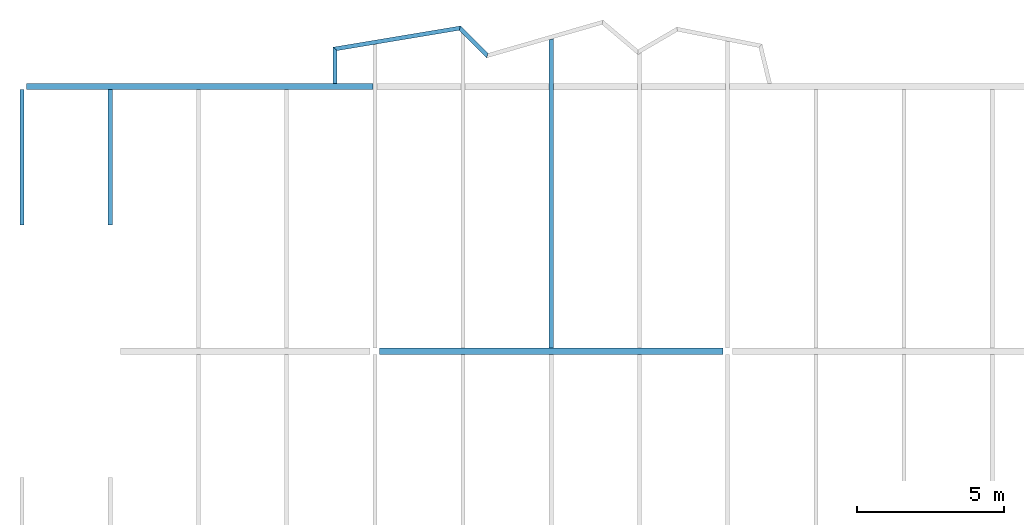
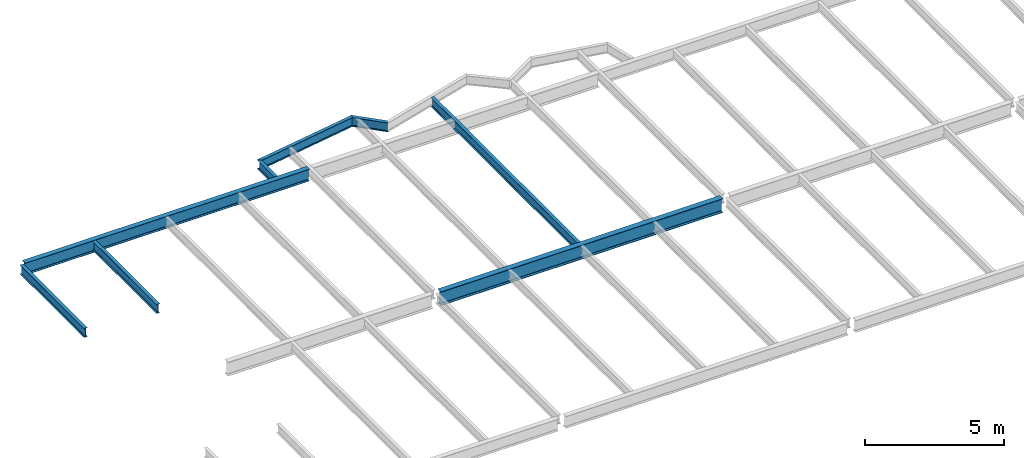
# One storey, part 3 of 21: 8 beams.
"""IFC2X3 building model written with IfcOpenShell, lengths in millimetres."""

from ifc_helpers import new_model, si_unit, origin, place, context, project, spatial, faceted_brep, material, element, save


model = new_model("IFC2X3")

# Units and contexts
context_of_model = context(None, 3, precision=1e-05, world=origin())
ifc_project = project(units=[si_unit("LENGTHUNIT", "METRE", prefix="MILLI")], contexts=[context_of_model])

# Building, storey
building = spatial("IfcBuilding", under=ifc_project, Name="Building", CompositionType="ELEMENT")
storey = spatial("IfcBuildingStorey", under=building, Name="FL3-FRM", CompositionType="ELEMENT")

# Beams
ifc_material_1 = material(Name="A992")
beam_1_placement = place(None, origin())
element("IfcBeam", 1, at=beam_1_placement, inside=storey, material=ifc_material_1, Name="Column454", context=context_of_model, shape_type="Brep", body=[
    faceted_brep([(-47836.5, 26885.5, 8261.0), (-47836.5, 27114.5, 8261.0), (-36163.5, 27114.5, 8261.0), (-36163.5, 26885.5, 8261.0), (-47836.5, 27114.5, 8280.6), (-36163.5, 27114.5, 8280.6), (-47836.5, 27018.6, 8280.6), (-36163.5, 27018.6, 8280.6), (-47836.5, 27015.4, 8281.03), (-36163.5, 27015.4, 8281.03), (-47836.5, 27012.3, 8282.3), (-36163.5, 27012.3, 8282.3), (-47836.5, 27009.7, 8284.32), (-36163.5, 27009.7, 8284.32), (-47836.5, 27007.7, 8286.95), (-36163.5, 27007.7, 8286.95), (-47836.5, 27006.4, 8290.01), (-36163.5, 27006.4, 8290.01), (-47836.5, 27005.9, 8293.3), (-36163.5, 27005.9, 8293.3), (-47836.5, 27005.9, 8840.7), (-36163.5, 27005.9, 8840.7), (-47836.5, 27006.4, 8843.99), (-36163.5, 27006.4, 8843.99), (-47836.5, 27007.7, 8847.05), (-36163.5, 27007.7, 8847.05), (-47836.5, 27009.7, 8849.68), (-36163.5, 27009.7, 8849.68), (-47836.5, 27012.3, 8851.7), (-36163.5, 27012.3, 8851.7), (-47836.5, 27015.4, 8852.97), (-36163.5, 27015.4, 8852.97), (-47836.5, 27018.6, 8853.4), (-36163.5, 27018.6, 8853.4), (-47836.5, 27114.5, 8853.4), (-36163.5, 27114.5, 8853.4), (-47836.5, 27114.5, 8873.0), (-36163.5, 27114.5, 8873.0), (-47836.5, 26885.5, 8873.0), (-36163.5, 26885.5, 8873.0), (-47836.5, 26885.5, 8853.4), (-36163.5, 26885.5, 8853.4), (-47836.5, 26981.4, 8853.4), (-36163.5, 26981.4, 8853.4), (-47836.5, 26984.6, 8852.97), (-36163.5, 26984.6, 8852.97), (-47836.5, 26987.7, 8851.7), (-36163.5, 26987.7, 8851.7), (-47836.5, 26990.3, 8849.68), (-36163.5, 26990.3, 8849.68), (-47836.5, 26992.3, 8847.05), (-36163.5, 26992.3, 8847.05), (-47836.5, 26993.6, 8843.99), (-36163.5, 26993.6, 8843.99), (-47836.5, 26994.1, 8840.7), (-36163.5, 26994.1, 8840.7), (-47836.5, 26994.1, 8293.3), (-36163.5, 26994.1, 8293.3), (-47836.5, 26993.6, 8290.01), (-36163.5, 26993.6, 8290.01), (-47836.5, 26992.3, 8286.95), (-36163.5, 26992.3, 8286.95), (-47836.5, 26990.3, 8284.32), (-36163.5, 26990.3, 8284.32), (-47836.5, 26987.7, 8282.3), (-36163.5, 26987.7, 8282.3), (-47836.5, 26984.6, 8281.03), (-36163.5, 26984.6, 8281.03), (-47836.5, 26981.4, 8280.6), (-36163.5, 26981.4, 8280.6), (-47836.5, 26885.5, 8280.6), (-36163.5, 26885.5, 8280.6)], [[[0, 1, 2, 3]], [[1, 4, 5, 2]], [[4, 6, 7, 5]], [[6, 8, 9, 7]], [[8, 10, 11, 9]], [[10, 12, 13, 11]], [[12, 14, 15, 13]], [[14, 16, 17, 15]], [[16, 18, 19, 17]], [[18, 20, 21, 19]], [[20, 22, 23, 21]], [[22, 24, 25, 23]], [[24, 26, 27, 25]], [[26, 28, 29, 27]], [[28, 30, 31, 29]], [[30, 32, 33, 31]], [[32, 34, 35, 33]], [[34, 36, 37, 35]], [[36, 38, 39, 37]], [[38, 40, 41, 39]], [[40, 42, 43, 41]], [[42, 44, 45, 43]], [[44, 46, 47, 45]], [[46, 48, 49, 47]], [[48, 50, 51, 49]], [[50, 52, 53, 51]], [[52, 54, 55, 53]], [[54, 56, 57, 55]], [[56, 58, 59, 57]], [[58, 60, 61, 59]], [[60, 62, 63, 61]], [[62, 64, 65, 63]], [[64, 66, 67, 65]], [[66, 68, 69, 67]], [[68, 70, 71, 69]], [[70, 0, 3, 71]], [[0, 70, 68, 66, 64, 62, 60, 58, 56, 54, 52, 50, 48, 46, 44, 42, 40, 38, 36, 34, 32, 30, 28, 26, 24, 22, 20, 18, 16, 14, 12, 10, 8, 6, 4, 1]], [[3, 2, 5, 7, 9, 11, 13, 15, 17, 19, 21, 23, 25, 27, 29, 31, 33, 35, 37, 39, 41, 43, 45, 47, 49, 51, 53, 55, 57, 59, 61, 63, 65, 67, 69, 71]]]),
])
ifc_material_2 = material(Name="A992")
beam_2_placement = place(None, origin())
element("IfcBeam", 2, at=beam_2_placement, inside=storey, material=ifc_material_2, Name="Column461", context=context_of_model, shape_type="Brep", body=[
    faceted_brep([(-59848.5, 35895.5, 8345.0), (-59848.5, 36104.5, 8345.0), (-48070.0, 36104.5, 8345.0), (-48070.0, 35895.5, 8345.0), (-59848.5, 36104.5, 8358.3), (-48070.0, 36104.5, 8358.3), (-59848.5, 36017.4, 8358.3), (-48070.0, 36017.4, 8358.3), (-59848.5, 36014.2, 8358.73), (-48070.0, 36014.2, 8358.73), (-59848.5, 36011.1, 8360.0), (-48070.0, 36011.1, 8360.0), (-59848.5, 36008.5, 8362.02), (-48070.0, 36008.5, 8362.02), (-59848.5, 36006.5, 8364.65), (-48070.0, 36006.5, 8364.65), (-59848.5, 36005.2, 8367.71), (-48070.0, 36005.2, 8367.71), (-59848.5, 36004.8, 8371.0), (-48070.0, 36004.8, 8371.0), (-59848.5, 36004.8, 8847.0), (-48070.0, 36004.8, 8847.0), (-59848.5, 36005.2, 8850.29), (-48070.0, 36005.2, 8850.29), (-59848.5, 36006.5, 8853.35), (-48070.0, 36006.5, 8853.35), (-59848.5, 36008.5, 8855.98), (-48070.0, 36008.5, 8855.98), (-59848.5, 36011.1, 8858.0), (-48070.0, 36011.1, 8858.0), (-59848.5, 36014.2, 8859.27), (-48070.0, 36014.2, 8859.27), (-59848.5, 36017.4, 8859.7), (-48070.0, 36017.4, 8859.7), (-59848.5, 36104.5, 8859.7), (-48070.0, 36104.5, 8859.7), (-59848.5, 36104.5, 8873.0), (-48070.0, 36104.5, 8873.0), (-59848.5, 35895.5, 8873.0), (-48070.0, 35895.5, 8873.0), (-59848.5, 35895.5, 8859.7), (-48070.0, 35895.5, 8859.7), (-59848.5, 35982.6, 8859.7), (-48070.0, 35982.6, 8859.7), (-59848.5, 35985.8, 8859.27), (-48070.0, 35985.8, 8859.27), (-59848.5, 35988.9, 8858.0), (-48070.0, 35988.9, 8858.0), (-59848.5, 35991.5, 8855.98), (-48070.0, 35991.5, 8855.98), (-59848.5, 35993.5, 8853.35), (-48070.0, 35993.5, 8853.35), (-59848.5, 35994.8, 8850.29), (-48070.0, 35994.8, 8850.29), (-59848.5, 35995.3, 8847.0), (-48070.0, 35995.3, 8847.0), (-59848.5, 35995.3, 8371.0), (-48070.0, 35995.3, 8371.0), (-59848.5, 35994.8, 8367.71), (-48070.0, 35994.8, 8367.71), (-59848.5, 35993.5, 8364.65), (-48070.0, 35993.5, 8364.65), (-59848.5, 35991.5, 8362.02), (-48070.0, 35991.5, 8362.02), (-59848.5, 35988.9, 8360.0), (-48070.0, 35988.9, 8360.0), (-59848.5, 35985.8, 8358.73), (-48070.0, 35985.8, 8358.73), (-59848.5, 35982.6, 8358.3), (-48070.0, 35982.6, 8358.3), (-59848.5, 35895.5, 8358.3), (-48070.0, 35895.5, 8358.3)], [[[0, 1, 2, 3]], [[1, 4, 5, 2]], [[4, 6, 7, 5]], [[6, 8, 9, 7]], [[8, 10, 11, 9]], [[10, 12, 13, 11]], [[12, 14, 15, 13]], [[14, 16, 17, 15]], [[16, 18, 19, 17]], [[18, 20, 21, 19]], [[20, 22, 23, 21]], [[22, 24, 25, 23]], [[24, 26, 27, 25]], [[26, 28, 29, 27]], [[28, 30, 31, 29]], [[30, 32, 33, 31]], [[32, 34, 35, 33]], [[34, 36, 37, 35]], [[36, 38, 39, 37]], [[38, 40, 41, 39]], [[40, 42, 43, 41]], [[42, 44, 45, 43]], [[44, 46, 47, 45]], [[46, 48, 49, 47]], [[48, 50, 51, 49]], [[50, 52, 53, 51]], [[52, 54, 55, 53]], [[54, 56, 57, 55]], [[56, 58, 59, 57]], [[58, 60, 61, 59]], [[60, 62, 63, 61]], [[62, 64, 65, 63]], [[64, 66, 67, 65]], [[66, 68, 69, 67]], [[68, 70, 71, 69]], [[70, 0, 3, 71]], [[0, 70, 68, 66, 64, 62, 60, 58, 56, 54, 52, 50, 48, 46, 44, 42, 40, 38, 36, 34, 32, 30, 28, 26, 24, 22, 20, 18, 16, 14, 12, 10, 8, 6, 4, 1]], [[3, 2, 5, 7, 9, 11, 13, 15, 17, 19, 21, 23, 25, 27, 29, 31, 33, 35, 37, 39, 41, 43, 45, 47, 49, 51, 53, 55, 57, 59, 61, 63, 65, 67, 69, 71]]]),
])
ifc_material_3 = material(Name="A992")
beam_3_placement = place(None, origin())
element("IfcBeam", 3, at=beam_3_placement, inside=storey, material=ifc_material_3, Name="B1085", context=context_of_model, shape_type="Brep", body=[
    faceted_brep([(-42070.0, 37592.1, 8474.0), (-41930.0, 37632.7, 8474.0), (-41930.0, 27114.5, 8474.0), (-42070.0, 27114.5, 8474.0), (-41930.0, 37632.7, 8482.8), (-41930.0, 27114.5, 8482.8), (-41986.6, 37616.3, 8482.8), (-41986.6, 27114.5, 8482.8), (-41988.0, 37615.9, 8482.9), (-41988.1, 27114.5, 8482.9), (-41989.5, 37615.4, 8483.21), (-41989.5, 27114.5, 8483.21), (-41990.8, 37615.0, 8483.72), (-41990.8, 27114.5, 8483.72), (-41992.1, 37614.7, 8484.42), (-41992.1, 27114.5, 8484.42), (-41993.3, 37614.3, 8485.29), (-41993.3, 27114.5, 8485.29), (-41994.3, 37614.0, 8486.32), (-41994.3, 27114.5, 8486.32), (-41995.2, 37613.8, 8487.48), (-41995.2, 27114.5, 8487.49), (-41995.9, 37613.6, 8488.76), (-41995.9, 27114.5, 8488.76), (-41996.4, 37613.4, 8490.12), (-41996.4, 27114.5, 8490.13), (-41996.7, 37613.4, 8491.55), (-41996.7, 27114.5, 8491.55), (-41996.8, 37613.3, 8493.0), (-41996.8, 27114.5, 8493.0), (-41996.8, 37613.3, 8854.0), (-41996.8, 27114.5, 8854.0), (-41996.7, 37613.4, 8855.45), (-41996.7, 27114.5, 8855.45), (-41996.4, 37613.4, 8856.88), (-41996.4, 27114.5, 8856.87), (-41995.9, 37613.6, 8858.24), (-41995.9, 27114.5, 8858.24), (-41995.2, 37613.8, 8859.52), (-41995.2, 27114.5, 8859.51), (-41994.3, 37614.0, 8860.68), (-41994.3, 27114.5, 8860.68), (-41993.3, 37614.3, 8861.71), (-41993.3, 27114.5, 8861.71), (-41992.1, 37614.7, 8862.58), (-41992.1, 27114.5, 8862.58), (-41990.8, 37615.0, 8863.28), (-41990.8, 27114.5, 8863.28), (-41989.5, 37615.4, 8863.79), (-41989.5, 27114.5, 8863.79), (-41988.0, 37615.9, 8864.1), (-41988.1, 27114.5, 8864.1), (-41986.6, 37616.3, 8864.2), (-41986.6, 27114.5, 8864.2), (-41930.0, 37632.7, 8864.2), (-41930.0, 27114.5, 8864.2), (-41930.0, 37632.7, 8873.0), (-41930.0, 27114.5, 8873.0), (-42070.0, 37592.1, 8873.0), (-42070.0, 27114.5, 8873.0), (-42070.0, 37592.1, 8864.2), (-42070.0, 27114.5, 8864.2), (-42013.4, 37608.5, 8864.2), (-42013.4, 27114.5, 8864.2), (-42012.0, 37608.9, 8864.1), (-42011.9, 27114.5, 8864.1), (-42010.5, 37609.3, 8863.79), (-42010.5, 27114.5, 8863.79), (-42009.2, 37609.7, 8863.28), (-42009.2, 27114.5, 8863.28), (-42007.9, 37610.1, 8862.58), (-42007.9, 27114.5, 8862.58), (-42006.7, 37610.4, 8861.71), (-42006.7, 27114.5, 8861.71), (-42005.7, 37610.7, 8860.68), (-42005.7, 27114.5, 8860.68), (-42004.8, 37611.0, 8859.52), (-42004.8, 27114.5, 8859.51), (-42004.1, 37611.2, 8858.24), (-42004.1, 27114.5, 8858.24), (-42003.6, 37611.3, 8856.88), (-42003.6, 27114.5, 8856.87), (-42003.3, 37611.4, 8855.45), (-42003.3, 27114.5, 8855.45), (-42003.2, 37611.5, 8854.0), (-42003.2, 27114.5, 8854.0), (-42003.2, 37611.5, 8493.0), (-42003.2, 27114.5, 8493.0), (-42003.3, 37611.4, 8491.55), (-42003.3, 27114.5, 8491.55), (-42003.6, 37611.3, 8490.12), (-42003.6, 27114.5, 8490.13), (-42004.1, 37611.2, 8488.76), (-42004.1, 27114.5, 8488.76), (-42004.8, 37611.0, 8487.48), (-42004.8, 27114.5, 8487.49), (-42005.7, 37610.7, 8486.32), (-42005.7, 27114.5, 8486.32), (-42006.7, 37610.4, 8485.29), (-42006.7, 27114.5, 8485.29), (-42007.9, 37610.1, 8484.42), (-42007.9, 27114.5, 8484.42), (-42009.2, 37609.7, 8483.72), (-42009.2, 27114.5, 8483.72), (-42010.5, 37609.3, 8483.21), (-42010.5, 27114.5, 8483.21), (-42012.0, 37608.9, 8482.9), (-42011.9, 27114.5, 8482.9), (-42013.4, 37608.5, 8482.8), (-42013.4, 27114.5, 8482.8), (-42070.0, 37592.1, 8482.8), (-42070.0, 27114.5, 8482.8)], [[[0, 1, 2, 3]], [[1, 4, 5, 2]], [[4, 6, 7, 5]], [[6, 8, 9, 7]], [[8, 10, 11, 9]], [[10, 12, 13, 11]], [[12, 14, 15, 13]], [[14, 16, 17, 15]], [[16, 18, 19, 17]], [[18, 20, 21, 19]], [[20, 22, 23, 21]], [[22, 24, 25, 23]], [[24, 26, 27, 25]], [[26, 28, 29, 27]], [[28, 30, 31, 29]], [[30, 32, 33, 31]], [[32, 34, 35, 33]], [[34, 36, 37, 35]], [[36, 38, 39, 37]], [[38, 40, 41, 39]], [[40, 42, 43, 41]], [[42, 44, 45, 43]], [[44, 46, 47, 45]], [[46, 48, 49, 47]], [[48, 50, 51, 49]], [[50, 52, 53, 51]], [[52, 54, 55, 53]], [[54, 56, 57, 55]], [[56, 58, 59, 57]], [[58, 60, 61, 59]], [[60, 62, 63, 61]], [[62, 64, 65, 63]], [[64, 66, 67, 65]], [[66, 68, 69, 67]], [[68, 70, 71, 69]], [[70, 72, 73, 71]], [[72, 74, 75, 73]], [[74, 76, 77, 75]], [[76, 78, 79, 77]], [[78, 80, 81, 79]], [[80, 82, 83, 81]], [[82, 84, 85, 83]], [[84, 86, 87, 85]], [[86, 88, 89, 87]], [[88, 90, 91, 89]], [[90, 92, 93, 91]], [[92, 94, 95, 93]], [[94, 96, 97, 95]], [[96, 98, 99, 97]], [[98, 100, 101, 99]], [[100, 102, 103, 101]], [[102, 104, 105, 103]], [[104, 106, 107, 105]], [[106, 108, 109, 107]], [[108, 110, 111, 109]], [[110, 0, 3, 111]], [[0, 110, 108, 106, 104, 102, 100, 98, 96, 94, 92, 90, 88, 86, 84, 82, 80, 78, 76, 74, 72, 70, 68, 66, 64, 62, 60, 58, 56, 54, 52, 50, 48, 46, 44, 42, 40, 38, 36, 34, 32, 30, 28, 26, 24, 22, 20, 18, 16, 14, 12, 10, 8, 6, 4, 1]], [[3, 2, 5, 7, 9, 11, 13, 15, 17, 19, 21, 23, 25, 27, 29, 31, 33, 35, 37, 39, 41, 43, 45, 47, 49, 51, 53, 55, 57, 59, 61, 63, 65, 67, 69, 71, 73, 75, 77, 79, 81, 83, 85, 87, 89, 91, 93, 95, 97, 99, 101, 103, 105, 107, 109, 111]]]),
])
ifc_material_4 = material(Name="A992")
beam_4_placement = place(None, origin())
element("IfcBeam", 4, at=beam_4_placement, inside=storey, material=ifc_material_4, Name="B1086", context=context_of_model, shape_type="Brep", body=[
    faceted_brep([(-45135.0, 37916.8, 8474.0), (-45087.0, 38066.7, 8474.0), (-44154.7, 37134.4, 8474.0), (-44195.2, 36976.9, 8474.0), (-45087.0, 38066.7, 8482.8), (-44154.7, 37134.4, 8482.8), (-45106.4, 38006.1, 8482.8), (-44171.0, 37070.8, 8482.8), (-45106.9, 38004.4, 8482.92), (-44171.5, 37069.0, 8482.91), (-45107.5, 38002.7, 8483.29), (-44172.0, 37067.2, 8483.29), (-45108.0, 38001.1, 8483.91), (-44172.4, 37065.6, 8483.91), (-45108.4, 37999.7, 8484.73), (-44172.8, 37064.0, 8484.73), (-45108.9, 37998.4, 8485.79), (-44173.1, 37062.6, 8485.79), (-45109.2, 37997.3, 8486.99), (-44173.4, 37061.5, 8486.99), (-45109.5, 37996.4, 8488.36), (-44173.7, 37060.5, 8488.35), (-45109.7, 37995.7, 8489.84), (-44173.9, 37059.9, 8489.84), (-45109.8, 37995.3, 8491.4), (-44174.0, 37059.4, 8491.4), (-45109.9, 37995.2, 8493.0), (-44174.0, 37059.3, 8493.0), (-45109.9, 37995.2, 8854.0), (-44174.0, 37059.3, 8854.0), (-45109.8, 37995.3, 8855.6), (-44174.0, 37059.4, 8855.6), (-45109.7, 37995.7, 8857.16), (-44173.9, 37059.9, 8857.16), (-45109.5, 37996.4, 8858.64), (-44173.7, 37060.5, 8858.65), (-45109.2, 37997.3, 8860.01), (-44173.4, 37061.5, 8860.01), (-45108.9, 37998.4, 8861.21), (-44173.1, 37062.6, 8861.21), (-45108.4, 37999.7, 8862.27), (-44172.8, 37064.0, 8862.27), (-45108.0, 38001.1, 8863.09), (-44172.4, 37065.6, 8863.09), (-45107.5, 38002.7, 8863.71), (-44172.0, 37067.2, 8863.71), (-45106.9, 38004.4, 8864.08), (-44171.5, 37069.0, 8864.09), (-45106.4, 38006.1, 8864.2), (-44171.0, 37070.8, 8864.2), (-45087.0, 38066.7, 8864.2), (-44154.7, 37134.4, 8864.2), (-45087.0, 38066.7, 8873.0), (-44154.7, 37134.4, 8873.0), (-45135.0, 37916.8, 8873.0), (-44195.2, 36976.9, 8873.0), (-45135.0, 37916.8, 8864.2), (-44195.2, 36976.9, 8864.2), (-45115.6, 37977.4, 8864.2), (-44178.8, 37040.6, 8864.2), (-45115.0, 37979.1, 8864.08), (-44178.3, 37042.4, 8864.09), (-45114.5, 37980.8, 8863.71), (-44177.9, 37044.2, 8863.71), (-45114.0, 37982.3, 8863.09), (-44177.5, 37045.8, 8863.09), (-45113.5, 37983.8, 8862.27), (-44177.1, 37047.3, 8862.27), (-45113.1, 37985.1, 8861.21), (-44176.7, 37048.7, 8861.21), (-45112.8, 37986.2, 8860.01), (-44176.4, 37049.9, 8860.01), (-45112.5, 37987.1, 8858.64), (-44176.2, 37050.8, 8858.65), (-45112.3, 37987.8, 8857.16), (-44176.0, 37051.5, 8857.16), (-45112.1, 37988.2, 8855.6), (-44175.9, 37051.9, 8855.6), (-45112.1, 37988.3, 8854.0), (-44175.9, 37052.1, 8854.0), (-45112.1, 37988.3, 8493.0), (-44175.9, 37052.1, 8493.0), (-45112.1, 37988.2, 8491.4), (-44175.9, 37051.9, 8491.4), (-45112.3, 37987.8, 8489.84), (-44176.0, 37051.5, 8489.84), (-45112.5, 37987.1, 8488.36), (-44176.2, 37050.8, 8488.35), (-45112.8, 37986.2, 8486.99), (-44176.4, 37049.9, 8486.99), (-45113.1, 37985.1, 8485.79), (-44176.7, 37048.7, 8485.79), (-45113.5, 37983.8, 8484.73), (-44177.1, 37047.3, 8484.73), (-45114.0, 37982.3, 8483.91), (-44177.5, 37045.8, 8483.91), (-45114.5, 37980.8, 8483.29), (-44177.9, 37044.2, 8483.29), (-45115.0, 37979.1, 8482.92), (-44178.3, 37042.4, 8482.91), (-45115.6, 37977.4, 8482.8), (-44178.8, 37040.6, 8482.8), (-45135.0, 37916.8, 8482.8), (-44195.2, 36976.9, 8482.8)], [[[0, 1, 2, 3]], [[1, 4, 5, 2]], [[4, 6, 7, 5]], [[6, 8, 9, 7]], [[8, 10, 11, 9]], [[10, 12, 13, 11]], [[12, 14, 15, 13]], [[14, 16, 17, 15]], [[16, 18, 19, 17]], [[18, 20, 21, 19]], [[20, 22, 23, 21]], [[22, 24, 25, 23]], [[24, 26, 27, 25]], [[26, 28, 29, 27]], [[28, 30, 31, 29]], [[30, 32, 33, 31]], [[32, 34, 35, 33]], [[34, 36, 37, 35]], [[36, 38, 39, 37]], [[38, 40, 41, 39]], [[40, 42, 43, 41]], [[42, 44, 45, 43]], [[44, 46, 47, 45]], [[46, 48, 49, 47]], [[48, 50, 51, 49]], [[50, 52, 53, 51]], [[52, 54, 55, 53]], [[54, 56, 57, 55]], [[56, 58, 59, 57]], [[58, 60, 61, 59]], [[60, 62, 63, 61]], [[62, 64, 65, 63]], [[64, 66, 67, 65]], [[66, 68, 69, 67]], [[68, 70, 71, 69]], [[70, 72, 73, 71]], [[72, 74, 75, 73]], [[74, 76, 77, 75]], [[76, 78, 79, 77]], [[78, 80, 81, 79]], [[80, 82, 83, 81]], [[82, 84, 85, 83]], [[84, 86, 87, 85]], [[86, 88, 89, 87]], [[88, 90, 91, 89]], [[90, 92, 93, 91]], [[92, 94, 95, 93]], [[94, 96, 97, 95]], [[96, 98, 99, 97]], [[98, 100, 101, 99]], [[100, 102, 103, 101]], [[102, 0, 3, 103]], [[0, 102, 100, 98, 96, 94, 92, 90, 88, 86, 84, 82, 80, 78, 76, 74, 72, 70, 68, 66, 64, 62, 60, 58, 56, 54, 52, 50, 48, 46, 44, 42, 40, 38, 36, 34, 32, 30, 28, 26, 24, 22, 20, 18, 16, 14, 12, 10, 8, 6, 4, 1]], [[3, 2, 5, 7, 9, 11, 13, 15, 17, 19, 21, 23, 25, 27, 29, 31, 33, 35, 37, 39, 41, 43, 45, 47, 49, 51, 53, 55, 57, 59, 61, 63, 65, 67, 69, 71, 73, 75, 77, 79, 81, 83, 85, 87, 89, 91, 93, 95, 97, 99, 101, 103]]]),
])
ifc_material_5 = material(Name="A992")
beam_5_placement = place(None, origin())
element("IfcBeam", 5, at=beam_5_placement, inside=storey, material=ifc_material_5, Name="B1089", context=context_of_model, shape_type="Brep", body=[
    faceted_brep([(-49280.0, 37225.9, 8474.0), (-49420.0, 37344.5, 8474.0), (-45087.0, 38066.7, 8474.0), (-45135.0, 37916.8, 8474.0), (-49420.0, 37344.5, 8482.8), (-45087.0, 38066.7, 8482.8), (-49363.4, 37296.6, 8482.8), (-45106.4, 38006.1, 8482.8), (-49361.8, 37295.2, 8482.91), (-45106.9, 38004.4, 8482.92), (-49360.3, 37293.9, 8483.29), (-45107.5, 38002.7, 8483.29), (-49358.8, 37292.7, 8483.9), (-45108.0, 38001.1, 8483.91), (-49357.4, 37291.5, 8484.72), (-45108.4, 37999.7, 8484.73), (-49356.2, 37290.5, 8485.79), (-45108.9, 37998.4, 8485.79), (-49355.2, 37289.6, 8486.97), (-45109.2, 37997.3, 8486.99), (-49354.3, 37288.9, 8488.34), (-45109.5, 37996.4, 8488.36), (-49353.7, 37288.4, 8489.84), (-45109.7, 37995.7, 8489.84), (-49353.4, 37288.1, 8491.39), (-45109.8, 37995.3, 8491.4), (-49353.2, 37287.9, 8493.0), (-45109.9, 37995.2, 8493.0), (-49353.2, 37287.9, 8854.0), (-45109.9, 37995.2, 8854.0), (-49353.4, 37288.1, 8855.61), (-45109.8, 37995.3, 8855.6), (-49353.7, 37288.4, 8857.16), (-45109.7, 37995.7, 8857.16), (-49354.3, 37288.9, 8858.66), (-45109.5, 37996.4, 8858.64), (-49355.2, 37289.6, 8860.03), (-45109.2, 37997.3, 8860.01), (-49356.2, 37290.5, 8861.21), (-45108.9, 37998.4, 8861.21), (-49357.4, 37291.5, 8862.28), (-45108.4, 37999.7, 8862.27), (-49358.8, 37292.7, 8863.1), (-45108.0, 38001.1, 8863.09), (-49360.3, 37293.9, 8863.71), (-45107.5, 38002.7, 8863.71), (-49361.8, 37295.2, 8864.09), (-45106.9, 38004.4, 8864.08), (-49363.4, 37296.6, 8864.2), (-45106.4, 38006.1, 8864.2), (-49420.0, 37344.5, 8864.2), (-45087.0, 38066.7, 8864.2), (-49420.0, 37344.5, 8873.0), (-45087.0, 38066.7, 8873.0), (-49280.0, 37225.9, 8873.0), (-45135.0, 37916.8, 8873.0), (-49280.0, 37225.9, 8864.2), (-45135.0, 37916.8, 8864.2), (-49336.6, 37273.9, 8864.2), (-45115.6, 37977.4, 8864.2), (-49338.2, 37275.2, 8864.09), (-45115.0, 37979.1, 8864.08), (-49339.7, 37276.5, 8863.71), (-45114.5, 37980.8, 8863.71), (-49341.2, 37277.8, 8863.1), (-45114.0, 37982.3, 8863.09), (-49342.6, 37278.9, 8862.28), (-45113.5, 37983.8, 8862.27), (-49343.8, 37280.0, 8861.21), (-45113.1, 37985.1, 8861.21), (-49344.8, 37280.9, 8860.03), (-45112.8, 37986.2, 8860.01), (-49345.7, 37281.6, 8858.66), (-45112.5, 37987.1, 8858.64), (-49346.3, 37282.1, 8857.16), (-45112.3, 37987.8, 8857.16), (-49346.6, 37282.4, 8855.61), (-45112.1, 37988.2, 8855.6), (-49346.8, 37282.5, 8854.0), (-45112.1, 37988.3, 8854.0), (-49346.8, 37282.5, 8493.0), (-45112.1, 37988.3, 8493.0), (-49346.6, 37282.4, 8491.39), (-45112.1, 37988.2, 8491.4), (-49346.3, 37282.1, 8489.84), (-45112.3, 37987.8, 8489.84), (-49345.7, 37281.6, 8488.34), (-45112.5, 37987.1, 8488.36), (-49344.8, 37280.9, 8486.97), (-45112.8, 37986.2, 8486.99), (-49343.8, 37280.0, 8485.79), (-45113.1, 37985.1, 8485.79), (-49342.6, 37278.9, 8484.72), (-45113.5, 37983.8, 8484.73), (-49341.2, 37277.8, 8483.9), (-45114.0, 37982.3, 8483.91), (-49339.7, 37276.5, 8483.29), (-45114.5, 37980.8, 8483.29), (-49338.2, 37275.2, 8482.91), (-45115.0, 37979.1, 8482.92), (-49336.6, 37273.9, 8482.8), (-45115.6, 37977.4, 8482.8), (-49280.0, 37225.9, 8482.8), (-45135.0, 37916.8, 8482.8)], [[[0, 1, 2, 3]], [[1, 4, 5, 2]], [[4, 6, 7, 5]], [[6, 8, 9, 7]], [[8, 10, 11, 9]], [[10, 12, 13, 11]], [[12, 14, 15, 13]], [[14, 16, 17, 15]], [[16, 18, 19, 17]], [[18, 20, 21, 19]], [[20, 22, 23, 21]], [[22, 24, 25, 23]], [[24, 26, 27, 25]], [[26, 28, 29, 27]], [[28, 30, 31, 29]], [[30, 32, 33, 31]], [[32, 34, 35, 33]], [[34, 36, 37, 35]], [[36, 38, 39, 37]], [[38, 40, 41, 39]], [[40, 42, 43, 41]], [[42, 44, 45, 43]], [[44, 46, 47, 45]], [[46, 48, 49, 47]], [[48, 50, 51, 49]], [[50, 52, 53, 51]], [[52, 54, 55, 53]], [[54, 56, 57, 55]], [[56, 58, 59, 57]], [[58, 60, 61, 59]], [[60, 62, 63, 61]], [[62, 64, 65, 63]], [[64, 66, 67, 65]], [[66, 68, 69, 67]], [[68, 70, 71, 69]], [[70, 72, 73, 71]], [[72, 74, 75, 73]], [[74, 76, 77, 75]], [[76, 78, 79, 77]], [[78, 80, 81, 79]], [[80, 82, 83, 81]], [[82, 84, 85, 83]], [[84, 86, 87, 85]], [[86, 88, 89, 87]], [[88, 90, 91, 89]], [[90, 92, 93, 91]], [[92, 94, 95, 93]], [[94, 96, 97, 95]], [[96, 98, 99, 97]], [[98, 100, 101, 99]], [[100, 102, 103, 101]], [[102, 0, 3, 103]], [[0, 102, 100, 98, 96, 94, 92, 90, 88, 86, 84, 82, 80, 78, 76, 74, 72, 70, 68, 66, 64, 62, 60, 58, 56, 54, 52, 50, 48, 46, 44, 42, 40, 38, 36, 34, 32, 30, 28, 26, 24, 22, 20, 18, 16, 14, 12, 10, 8, 6, 4, 1]], [[3, 2, 5, 7, 9, 11, 13, 15, 17, 19, 21, 23, 25, 27, 29, 31, 33, 35, 37, 39, 41, 43, 45, 47, 49, 51, 53, 55, 57, 59, 61, 63, 65, 67, 69, 71, 73, 75, 77, 79, 81, 83, 85, 87, 89, 91, 93, 95, 97, 99, 101, 103]]]),
])
ifc_material_6 = material(Name="A992")
beam_6_placement = place(None, origin())
element("IfcBeam", 6, at=beam_6_placement, inside=storey, material=ifc_material_6, Name="B1090", context=context_of_model, shape_type="Brep", body=[
    faceted_brep([(-49280.0, 36104.5, 8474.0), (-49420.0, 36104.5, 8474.0), (-49420.0, 37344.5, 8474.0), (-49280.0, 37225.9, 8474.0), (-49420.0, 36104.5, 8482.8), (-49420.0, 37344.5, 8482.8), (-49363.4, 36104.5, 8482.8), (-49363.4, 37296.6, 8482.8), (-49361.9, 36104.5, 8482.9), (-49362.0, 37295.4, 8482.89), (-49360.5, 36104.5, 8483.21), (-49360.5, 37294.2, 8483.2), (-49359.2, 36104.5, 8483.72), (-49359.2, 37293.0, 8483.72), (-49357.9, 36104.5, 8484.42), (-49357.9, 37291.9, 8484.39), (-49356.7, 36104.5, 8485.29), (-49356.7, 37290.9, 8485.27), (-49355.7, 36104.5, 8486.32), (-49355.7, 37290.1, 8486.3), (-49354.8, 36104.5, 8487.49), (-49354.8, 37289.3, 8487.45), (-49354.1, 36104.5, 8488.76), (-49354.1, 37288.7, 8488.74), (-49353.6, 36104.5, 8490.13), (-49353.6, 37288.3, 8490.11), (-49353.3, 36104.5, 8491.55), (-49353.3, 37288.1, 8491.53), (-49353.2, 36104.5, 8493.0), (-49353.2, 37287.9, 8493.0), (-49353.2, 36104.5, 8854.0), (-49353.2, 37287.9, 8854.0), (-49353.3, 36104.5, 8855.45), (-49353.3, 37288.1, 8855.47), (-49353.6, 36104.5, 8856.87), (-49353.6, 37288.3, 8856.89), (-49354.1, 36104.5, 8858.24), (-49354.1, 37288.7, 8858.26), (-49354.8, 36104.5, 8859.51), (-49354.8, 37289.3, 8859.55), (-49355.7, 36104.5, 8860.68), (-49355.7, 37290.1, 8860.7), (-49356.7, 36104.5, 8861.71), (-49356.7, 37290.9, 8861.73), (-49357.9, 36104.5, 8862.58), (-49357.9, 37291.9, 8862.61), (-49359.2, 36104.5, 8863.28), (-49359.2, 37293.0, 8863.28), (-49360.5, 36104.5, 8863.79), (-49360.5, 37294.2, 8863.8), (-49361.9, 36104.5, 8864.1), (-49362.0, 37295.4, 8864.11), (-49363.4, 36104.5, 8864.2), (-49363.4, 37296.6, 8864.2), (-49420.0, 36104.5, 8864.2), (-49420.0, 37344.5, 8864.2), (-49420.0, 36104.5, 8873.0), (-49420.0, 37344.5, 8873.0), (-49280.0, 36104.5, 8873.0), (-49280.0, 37225.9, 8873.0), (-49280.0, 36104.5, 8864.2), (-49280.0, 37225.9, 8864.2), (-49336.6, 36104.5, 8864.2), (-49336.6, 37273.9, 8864.2), (-49338.1, 36104.5, 8864.1), (-49338.0, 37275.1, 8864.11), (-49339.5, 36104.5, 8863.79), (-49339.5, 37276.3, 8863.8), (-49340.8, 36104.5, 8863.28), (-49340.8, 37277.5, 8863.28), (-49342.1, 36104.5, 8862.58), (-49342.1, 37278.5, 8862.61), (-49343.3, 36104.5, 8861.71), (-49343.3, 37279.5, 8861.73), (-49344.3, 36104.5, 8860.68), (-49344.3, 37280.4, 8860.7), (-49345.2, 36104.5, 8859.51), (-49345.2, 37281.1, 8859.55), (-49345.9, 36104.5, 8858.24), (-49345.9, 37281.7, 8858.26), (-49346.4, 36104.5, 8856.87), (-49346.4, 37282.2, 8856.89), (-49346.7, 36104.5, 8855.45), (-49346.7, 37282.4, 8855.47), (-49346.8, 36104.5, 8854.0), (-49346.8, 37282.5, 8854.0), (-49346.8, 36104.5, 8493.0), (-49346.8, 37282.5, 8493.0), (-49346.7, 36104.5, 8491.55), (-49346.7, 37282.4, 8491.53), (-49346.4, 36104.5, 8490.13), (-49346.4, 37282.2, 8490.11), (-49345.9, 36104.5, 8488.76), (-49345.9, 37281.7, 8488.74), (-49345.2, 36104.5, 8487.49), (-49345.2, 37281.1, 8487.45), (-49344.3, 36104.5, 8486.32), (-49344.3, 37280.4, 8486.3), (-49343.3, 36104.5, 8485.29), (-49343.3, 37279.5, 8485.27), (-49342.1, 36104.5, 8484.42), (-49342.1, 37278.5, 8484.39), (-49340.8, 36104.5, 8483.72), (-49340.8, 37277.5, 8483.72), (-49339.5, 36104.5, 8483.21), (-49339.5, 37276.3, 8483.2), (-49338.1, 36104.5, 8482.9), (-49338.0, 37275.1, 8482.89), (-49336.6, 36104.5, 8482.8), (-49336.6, 37273.9, 8482.8), (-49280.0, 36104.5, 8482.8), (-49280.0, 37225.9, 8482.8)], [[[0, 1, 2, 3]], [[1, 4, 5, 2]], [[4, 6, 7, 5]], [[6, 8, 9, 7]], [[8, 10, 11, 9]], [[10, 12, 13, 11]], [[12, 14, 15, 13]], [[14, 16, 17, 15]], [[16, 18, 19, 17]], [[18, 20, 21, 19]], [[20, 22, 23, 21]], [[22, 24, 25, 23]], [[24, 26, 27, 25]], [[26, 28, 29, 27]], [[28, 30, 31, 29]], [[30, 32, 33, 31]], [[32, 34, 35, 33]], [[34, 36, 37, 35]], [[36, 38, 39, 37]], [[38, 40, 41, 39]], [[40, 42, 43, 41]], [[42, 44, 45, 43]], [[44, 46, 47, 45]], [[46, 48, 49, 47]], [[48, 50, 51, 49]], [[50, 52, 53, 51]], [[52, 54, 55, 53]], [[54, 56, 57, 55]], [[56, 58, 59, 57]], [[58, 60, 61, 59]], [[60, 62, 63, 61]], [[62, 64, 65, 63]], [[64, 66, 67, 65]], [[66, 68, 69, 67]], [[68, 70, 71, 69]], [[70, 72, 73, 71]], [[72, 74, 75, 73]], [[74, 76, 77, 75]], [[76, 78, 79, 77]], [[78, 80, 81, 79]], [[80, 82, 83, 81]], [[82, 84, 85, 83]], [[84, 86, 87, 85]], [[86, 88, 89, 87]], [[88, 90, 91, 89]], [[90, 92, 93, 91]], [[92, 94, 95, 93]], [[94, 96, 97, 95]], [[96, 98, 99, 97]], [[98, 100, 101, 99]], [[100, 102, 103, 101]], [[102, 104, 105, 103]], [[104, 106, 107, 105]], [[106, 108, 109, 107]], [[108, 110, 111, 109]], [[110, 0, 3, 111]], [[0, 110, 108, 106, 104, 102, 100, 98, 96, 94, 92, 90, 88, 86, 84, 82, 80, 78, 76, 74, 72, 70, 68, 66, 64, 62, 60, 58, 56, 54, 52, 50, 48, 46, 44, 42, 40, 38, 36, 34, 32, 30, 28, 26, 24, 22, 20, 18, 16, 14, 12, 10, 8, 6, 4, 1]], [[3, 2, 5, 7, 9, 11, 13, 15, 17, 19, 21, 23, 25, 27, 29, 31, 33, 35, 37, 39, 41, 43, 45, 47, 49, 51, 53, 55, 57, 59, 61, 63, 65, 67, 69, 71, 73, 75, 77, 79, 81, 83, 85, 87, 89, 91, 93, 95, 97, 99, 101, 103, 105, 107, 109, 111]]]),
])
ifc_material_7 = material(Name="A992")
beam_7_placement = place(None, origin())
element("IfcBeam", 7, at=beam_7_placement, inside=storey, material=ifc_material_7, Name="B1092", context=context_of_model, shape_type="Brep", body=[
    faceted_brep([(-57070.0, 35895.5, 8474.0), (-56930.0, 35895.5, 8474.0), (-56930.0, 31300.0, 8474.0), (-57070.0, 31300.0, 8474.0), (-56930.0, 35895.5, 8482.8), (-56930.0, 31300.0, 8482.8), (-56986.6, 35895.5, 8482.8), (-56986.6, 31300.0, 8482.8), (-56989.2, 35895.5, 8483.15), (-56989.2, 31300.0, 8483.15), (-56991.7, 35895.5, 8484.17), (-56991.7, 31300.0, 8484.17), (-56993.8, 35895.5, 8485.79), (-56993.8, 31300.0, 8485.79), (-56995.4, 35895.5, 8487.9), (-56995.4, 31300.0, 8487.9), (-56996.5, 35895.5, 8490.36), (-56996.5, 31300.0, 8490.36), (-56996.8, 35895.5, 8493.0), (-56996.8, 31300.0, 8493.0), (-56996.8, 35895.5, 8854.0), (-56996.8, 31300.0, 8854.0), (-56996.5, 35895.5, 8856.64), (-56996.5, 31300.0, 8856.64), (-56995.4, 35895.5, 8859.1), (-56995.4, 31300.0, 8859.1), (-56993.8, 35895.5, 8861.21), (-56993.8, 31300.0, 8861.21), (-56991.7, 35895.5, 8862.83), (-56991.7, 31300.0, 8862.83), (-56989.2, 35895.5, 8863.85), (-56989.2, 31300.0, 8863.85), (-56986.6, 35895.5, 8864.2), (-56986.6, 31300.0, 8864.2), (-56930.0, 35895.5, 8864.2), (-56930.0, 31300.0, 8864.2), (-56930.0, 35895.5, 8873.0), (-56930.0, 31300.0, 8873.0), (-57070.0, 35895.5, 8873.0), (-57070.0, 31300.0, 8873.0), (-57070.0, 35895.5, 8864.2), (-57070.0, 31300.0, 8864.2), (-57013.4, 35895.5, 8864.2), (-57013.4, 31300.0, 8864.2), (-57010.8, 35895.5, 8863.85), (-57010.8, 31300.0, 8863.85), (-57008.3, 35895.5, 8862.83), (-57008.3, 31300.0, 8862.83), (-57006.2, 35895.5, 8861.21), (-57006.2, 31300.0, 8861.21), (-57004.6, 35895.5, 8859.1), (-57004.6, 31300.0, 8859.1), (-57003.5, 35895.5, 8856.64), (-57003.5, 31300.0, 8856.64), (-57003.2, 35895.5, 8854.0), (-57003.2, 31300.0, 8854.0), (-57003.2, 35895.5, 8493.0), (-57003.2, 31300.0, 8493.0), (-57003.5, 35895.5, 8490.36), (-57003.5, 31300.0, 8490.36), (-57004.6, 35895.5, 8487.9), (-57004.6, 31300.0, 8487.9), (-57006.2, 35895.5, 8485.79), (-57006.2, 31300.0, 8485.79), (-57008.3, 35895.5, 8484.17), (-57008.3, 31300.0, 8484.17), (-57010.8, 35895.5, 8483.15), (-57010.8, 31300.0, 8483.15), (-57013.4, 35895.5, 8482.8), (-57013.4, 31300.0, 8482.8), (-57070.0, 35895.5, 8482.8), (-57070.0, 31300.0, 8482.8)], [[[0, 1, 2, 3]], [[1, 4, 5, 2]], [[4, 6, 7, 5]], [[6, 8, 9, 7]], [[8, 10, 11, 9]], [[10, 12, 13, 11]], [[12, 14, 15, 13]], [[14, 16, 17, 15]], [[16, 18, 19, 17]], [[18, 20, 21, 19]], [[20, 22, 23, 21]], [[22, 24, 25, 23]], [[24, 26, 27, 25]], [[26, 28, 29, 27]], [[28, 30, 31, 29]], [[30, 32, 33, 31]], [[32, 34, 35, 33]], [[34, 36, 37, 35]], [[36, 38, 39, 37]], [[38, 40, 41, 39]], [[40, 42, 43, 41]], [[42, 44, 45, 43]], [[44, 46, 47, 45]], [[46, 48, 49, 47]], [[48, 50, 51, 49]], [[50, 52, 53, 51]], [[52, 54, 55, 53]], [[54, 56, 57, 55]], [[56, 58, 59, 57]], [[58, 60, 61, 59]], [[60, 62, 63, 61]], [[62, 64, 65, 63]], [[64, 66, 67, 65]], [[66, 68, 69, 67]], [[68, 70, 71, 69]], [[70, 0, 3, 71]], [[0, 70, 68, 66, 64, 62, 60, 58, 56, 54, 52, 50, 48, 46, 44, 42, 40, 38, 36, 34, 32, 30, 28, 26, 24, 22, 20, 18, 16, 14, 12, 10, 8, 6, 4, 1]], [[3, 2, 5, 7, 9, 11, 13, 15, 17, 19, 21, 23, 25, 27, 29, 31, 33, 35, 37, 39, 41, 43, 45, 47, 49, 51, 53, 55, 57, 59, 61, 63, 65, 67, 69, 71]]]),
])
ifc_material_8 = material(Name="A992")
beam_8_placement = place(None, origin())
element("IfcBeam", 8, at=beam_8_placement, inside=storey, material=ifc_material_8, Name="B1094", context=context_of_model, shape_type="Brep", body=[
    faceted_brep([(-60070.0, 35895.5, 8474.0), (-59930.0, 35895.5, 8474.0), (-59930.0, 31300.0, 8474.0), (-60070.0, 31300.0, 8474.0), (-59930.0, 35895.5, 8482.8), (-59930.0, 31300.0, 8482.8), (-59986.6, 35895.5, 8482.8), (-59986.6, 31300.0, 8482.8), (-59989.2, 35895.5, 8483.15), (-59989.2, 31300.0, 8483.15), (-59991.7, 35895.5, 8484.17), (-59991.7, 31300.0, 8484.17), (-59993.8, 35895.5, 8485.79), (-59993.8, 31300.0, 8485.79), (-59995.4, 35895.5, 8487.9), (-59995.4, 31300.0, 8487.9), (-59996.5, 35895.5, 8490.36), (-59996.5, 31300.0, 8490.36), (-59996.8, 35895.5, 8493.0), (-59996.8, 31300.0, 8493.0), (-59996.8, 35895.5, 8854.0), (-59996.8, 31300.0, 8854.0), (-59996.5, 35895.5, 8856.64), (-59996.5, 31300.0, 8856.64), (-59995.4, 35895.5, 8859.1), (-59995.4, 31300.0, 8859.1), (-59993.8, 35895.5, 8861.21), (-59993.8, 31300.0, 8861.21), (-59991.7, 35895.5, 8862.83), (-59991.7, 31300.0, 8862.83), (-59989.2, 35895.5, 8863.85), (-59989.2, 31300.0, 8863.85), (-59986.6, 35895.5, 8864.2), (-59986.6, 31300.0, 8864.2), (-59930.0, 35895.5, 8864.2), (-59930.0, 31300.0, 8864.2), (-59930.0, 35895.5, 8873.0), (-59930.0, 31300.0, 8873.0), (-60070.0, 35895.5, 8873.0), (-60070.0, 31300.0, 8873.0), (-60070.0, 35895.5, 8864.2), (-60070.0, 31300.0, 8864.2), (-60013.4, 35895.5, 8864.2), (-60013.4, 31300.0, 8864.2), (-60010.8, 35895.5, 8863.85), (-60010.8, 31300.0, 8863.85), (-60008.3, 35895.5, 8862.83), (-60008.3, 31300.0, 8862.83), (-60006.2, 35895.5, 8861.21), (-60006.2, 31300.0, 8861.21), (-60004.6, 35895.5, 8859.1), (-60004.6, 31300.0, 8859.1), (-60003.5, 35895.5, 8856.64), (-60003.5, 31300.0, 8856.64), (-60003.2, 35895.5, 8854.0), (-60003.2, 31300.0, 8854.0), (-60003.2, 35895.5, 8493.0), (-60003.2, 31300.0, 8493.0), (-60003.5, 35895.5, 8490.36), (-60003.5, 31300.0, 8490.36), (-60004.6, 35895.5, 8487.9), (-60004.6, 31300.0, 8487.9), (-60006.2, 35895.5, 8485.79), (-60006.2, 31300.0, 8485.79), (-60008.3, 35895.5, 8484.17), (-60008.3, 31300.0, 8484.17), (-60010.8, 35895.5, 8483.15), (-60010.8, 31300.0, 8483.15), (-60013.4, 35895.5, 8482.8), (-60013.4, 31300.0, 8482.8), (-60070.0, 35895.5, 8482.8), (-60070.0, 31300.0, 8482.8)], [[[0, 1, 2, 3]], [[1, 4, 5, 2]], [[4, 6, 7, 5]], [[6, 8, 9, 7]], [[8, 10, 11, 9]], [[10, 12, 13, 11]], [[12, 14, 15, 13]], [[14, 16, 17, 15]], [[16, 18, 19, 17]], [[18, 20, 21, 19]], [[20, 22, 23, 21]], [[22, 24, 25, 23]], [[24, 26, 27, 25]], [[26, 28, 29, 27]], [[28, 30, 31, 29]], [[30, 32, 33, 31]], [[32, 34, 35, 33]], [[34, 36, 37, 35]], [[36, 38, 39, 37]], [[38, 40, 41, 39]], [[40, 42, 43, 41]], [[42, 44, 45, 43]], [[44, 46, 47, 45]], [[46, 48, 49, 47]], [[48, 50, 51, 49]], [[50, 52, 53, 51]], [[52, 54, 55, 53]], [[54, 56, 57, 55]], [[56, 58, 59, 57]], [[58, 60, 61, 59]], [[60, 62, 63, 61]], [[62, 64, 65, 63]], [[64, 66, 67, 65]], [[66, 68, 69, 67]], [[68, 70, 71, 69]], [[70, 0, 3, 71]], [[0, 70, 68, 66, 64, 62, 60, 58, 56, 54, 52, 50, 48, 46, 44, 42, 40, 38, 36, 34, 32, 30, 28, 26, 24, 22, 20, 18, 16, 14, 12, 10, 8, 6, 4, 1]], [[3, 2, 5, 7, 9, 11, 13, 15, 17, 19, 21, 23, 25, 27, 29, 31, 33, 35, 37, 39, 41, 43, 45, 47, 49, 51, 53, 55, 57, 59, 61, 63, 65, 67, 69, 71]]]),
])

save(model, "model.ifc")
